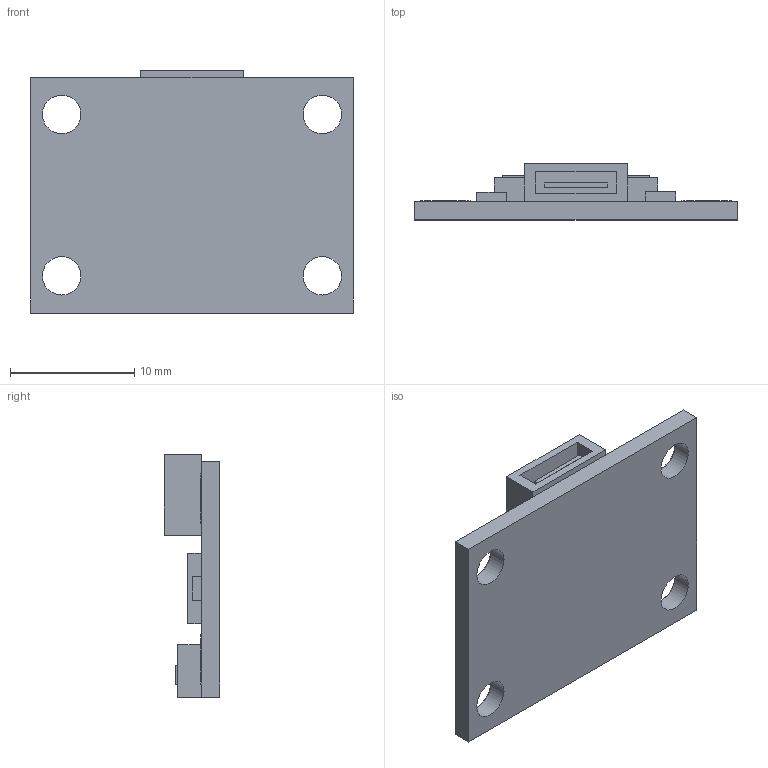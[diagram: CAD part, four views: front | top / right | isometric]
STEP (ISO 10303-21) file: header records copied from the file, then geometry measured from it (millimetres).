
FILE_DESCRIPTION(('Open CASCADE Model'),'2;1');
FILE_NAME('ov5647-usb-adapter-pcb.step','2026-11-14T14:29:29',('Author') ,('Open CASCADE'),'Open CASCADE STEP processor 8.0','Open CASCADE 8.0' ,'Unknown');
FILE_SCHEMA(('AP242_MANAGED_MODEL_BASED_3D_ENGINEERING_MIM_LF {1 0 10303 442 1 1 4 }' ));
Length unit declared in the file: millimetre
Products named in the file (1): OV5647 USB Adapter PCB
Bounding box: 26 x 4.5 x 19.5 mm (x, y, z)
Volume: 978.1 mm3; surface area: 1816.1 mm2
Topology: 12 solids, 12 shells, 78 faces, 156 edges, 104 vertices
Faces by surface type: plane 66, cylinder 12
Full cylindrical faces by diameter (mm): 3.1 x8, 4 x4
Entity records: 4126 total; most frequent: CARTESIAN_POINT 667, DIRECTION 634, LINE 404, VECTOR 404, ORIENTED_EDGE 312, PCURVE 312, DEFINITIONAL_REPRESENTATION 312, EDGE_CURVE 156
